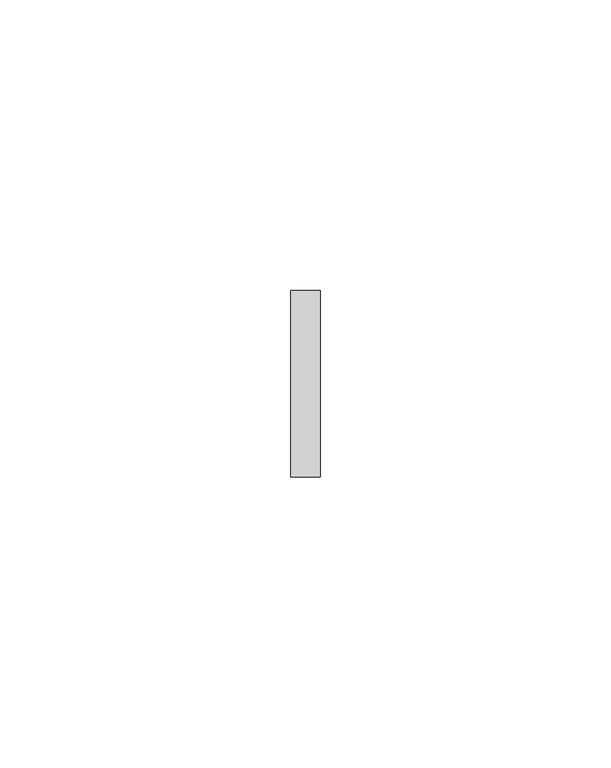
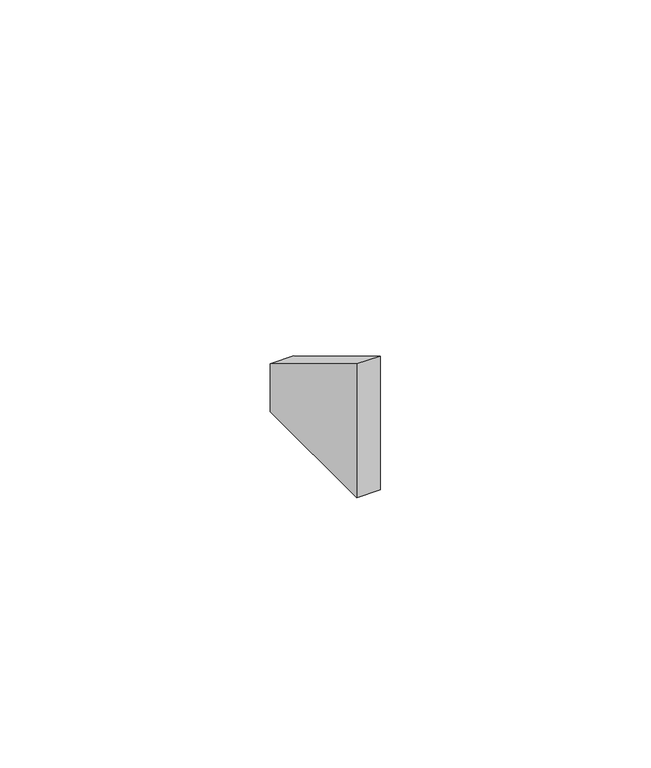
"""IFC4 building model written with IfcOpenShell, lengths in millimetres: proxy geometry, Odbojnik - OPK20 : Odbojnik - OPK20."""

from ifc_helpers import new_model, si_unit, frame, origin, place, context, project, spatial, polyline, outline, extrude, source, transform, mapped, element, save


def generic_models_eb490aad(model_context):
    return source(origin(), model_context, "Body", "SweptSolid", [
        extrude(outline(polyline([(-26.9601139, 0.0), (-26.9601139, 31.9999999), (-16.0755384, 31.9999999), (3.2311283, 0.0), (-26.9601139, 0.0)])), frame((2.5023496, -16.0002947, 26.9601139), z_axis=(-0.9999999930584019, 0.00011782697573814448, 0.0), x_axis=(0.0, 0.0, 1.0)), (0.0, 0.0, 1.0), 5.0046992),
    ])


if __name__ == "__main__":
    model = new_model("IFC4")
    model_context = context("Model", 3, world=origin())
    ifc_project = project(units=[si_unit("LENGTHUNIT", "METRE", prefix="MILLI")], contexts=[model_context])
    site = spatial("IfcSite", under=ifc_project)
    building = spatial("IfcBuilding", under=site)
    placement = place(None, origin())
    generic_models_shape = generic_models_eb490aad(model_context)
    element("IfcBuildingElementProxy", 1, Name="Odbojnik - OPK20 : Odbojnik - OPK20", ObjectType="Odbojnik - OPK20 : Odbojnik - OPK20", at=placement, inside=building, context=model_context, shape_type="MappedRepresentation", body=[
        mapped(generic_models_shape, transform((0.0, 0.0, 0.0), x_axis=(1.0, 0.0, 0.0), y_axis=(0.0, 1.0, 0.0), z_axis=(0.0, 0.0, 1.0))),
    ])
    save(model, "model.ifc")
